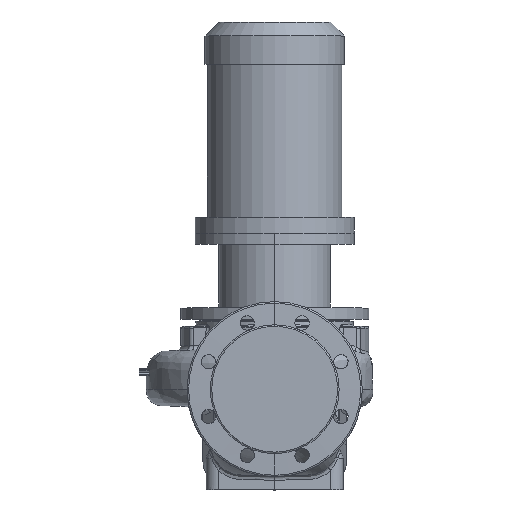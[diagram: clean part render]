
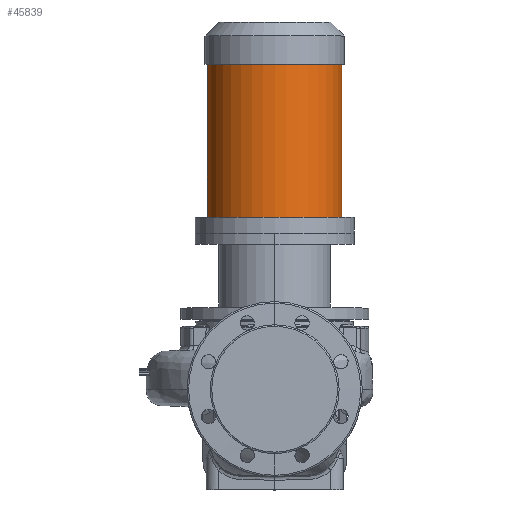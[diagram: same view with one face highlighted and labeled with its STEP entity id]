
A CAD part, top view. The second image highlights one B-rep face of the part: STEP entity #45839.
In plain terms, the highlighted cylindrical face has radius 84.5 mm (diameter 169 mm), a partial arc.
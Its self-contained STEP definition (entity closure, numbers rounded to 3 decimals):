
#305 = EDGE_CURVE ( 'NONE', #50027, #4864, #49364, .T. ) ;
#4864 = VERTEX_POINT ( 'NONE', #21968 ) ;
#7193 = CIRCLE ( 'NONE', #54505, 84.5 ) ;
#8179 = DIRECTION ( 'NONE',  ( -1., 0., 0. ) ) ;
#10328 = VECTOR ( 'NONE', #23764, 1000. ) ;
#15878 = LINE ( 'NONE', #45305, #10328 ) ;
#16971 = ORIENTED_EDGE ( 'NONE', *, *, #305, .F. ) ;
#21391 = CARTESIAN_POINT ( 'NONE',  ( 84.5, 196.3, 0. ) ) ;
#21968 = CARTESIAN_POINT ( 'NONE',  ( 84.5, 216.3, 0. ) ) ;
#23764 = DIRECTION ( 'NONE',  ( 0., -1., 0. ) ) ;
#25367 = CARTESIAN_POINT ( 'NONE',  ( -84.5, 408.3, 0. ) ) ;
#26441 = EDGE_CURVE ( 'NONE', #4864, #52392, #27533, .T. ) ;
#27070 = VERTEX_POINT ( 'NONE', #25367 ) ;
#27533 = CIRCLE ( 'NONE', #28083, 84.5 ) ;
#27887 = EDGE_CURVE ( 'NONE', #50027, #27070, #7193, .T. ) ;
#28083 = AXIS2_PLACEMENT_3D ( 'NONE', #53334, #39238, #8179 ) ;
#31445 = EDGE_CURVE ( 'NONE', #27070, #52392, #15878, .T. ) ;
#33461 = DIRECTION ( 'NONE',  ( -1., 0., 0. ) ) ;
#34500 = FACE_OUTER_BOUND ( 'NONE', #56999, .T. ) ;
#34707 = CARTESIAN_POINT ( 'NONE',  ( 0., 196.3, 0. ) ) ;
#36945 = ORIENTED_EDGE ( 'NONE', *, *, #31445, .T. ) ;
#38148 = CARTESIAN_POINT ( 'NONE',  ( 0., 408.3, 0. ) ) ;
#39238 = DIRECTION ( 'NONE',  ( 0., -1., 0. ) ) ;
#39392 = DIRECTION ( 'NONE',  ( -1., 0., 0. ) ) ;
#44223 = CYLINDRICAL_SURFACE ( 'NONE', #49912, 84.5 ) ;
#45228 = VECTOR ( 'NONE', #54866, 1000. ) ;
#45305 = CARTESIAN_POINT ( 'NONE',  ( -84.5, 196.3, 0. ) ) ;
#45839 = ADVANCED_FACE ( 'NONE', ( #34500 ), #44223, .T. ) ;
#46486 = DIRECTION ( 'NONE',  ( 0., -1., 0. ) ) ;
#49364 = LINE ( 'NONE', #21391, #45228 ) ;
#49912 = AXIS2_PLACEMENT_3D ( 'NONE', #34707, #57177, #39392 ) ;
#50027 = VERTEX_POINT ( 'NONE', #52577 ) ;
#52392 = VERTEX_POINT ( 'NONE', #54610 ) ;
#52577 = CARTESIAN_POINT ( 'NONE',  ( 84.5, 408.3, 0. ) ) ;
#53334 = CARTESIAN_POINT ( 'NONE',  ( 0., 216.3, 0. ) ) ;
#54505 = AXIS2_PLACEMENT_3D ( 'NONE', #38148, #46486, #33461 ) ;
#54610 = CARTESIAN_POINT ( 'NONE',  ( -84.5, 216.3, 0. ) ) ;
#54866 = DIRECTION ( 'NONE',  ( 0., -1., 0. ) ) ;
#56192 = ORIENTED_EDGE ( 'NONE', *, *, #27887, .T. ) ;
#56832 = ORIENTED_EDGE ( 'NONE', *, *, #26441, .F. ) ;
#56999 = EDGE_LOOP ( 'NONE', ( #16971, #56192, #36945, #56832 ) ) ;
#57177 = DIRECTION ( 'NONE',  ( 0., -1., 0. ) ) ;
